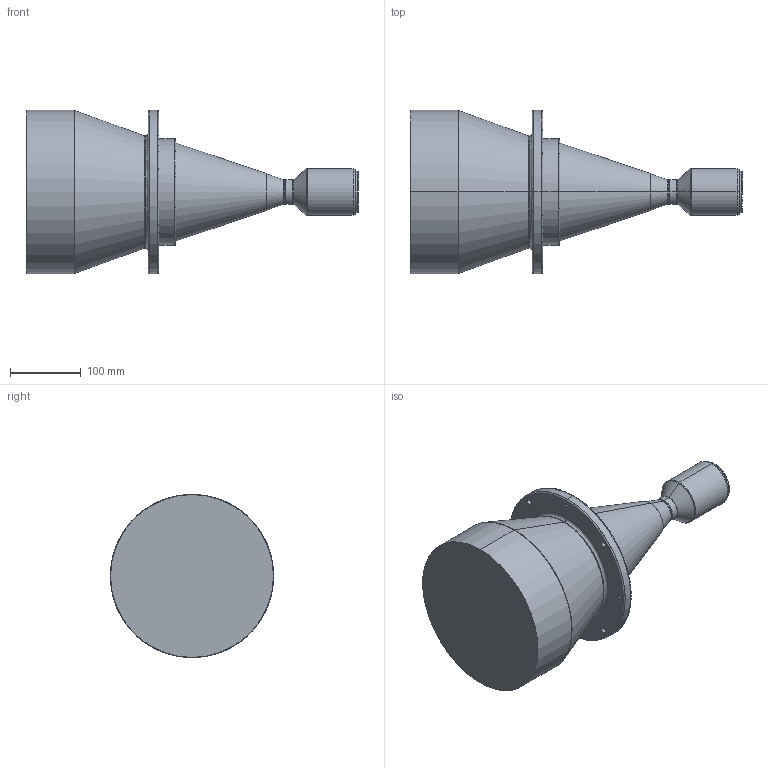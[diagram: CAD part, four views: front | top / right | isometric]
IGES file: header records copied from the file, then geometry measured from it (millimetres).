
Start section: SolidWorks IGES file using analytic representation for surfaces
Global section: file name: C:\Users\Administrator\Desktop\DTCM430H-190H-M58-AL.IGS; native system: SolidWorks 2017; preprocessor: SolidWorks 2017; author: Administrator; date: 210315.135652; units: millimetre
Bounding box: 467.8 x 230 x 230 mm (x, y, z)
Surface area: 294785.9 mm2 (no closed solid volume)
Topology: 0 solids, 0 shells, 78 faces, 1808 edges, 1808 vertices
Faces by surface type: revolution 52, bspline 26
